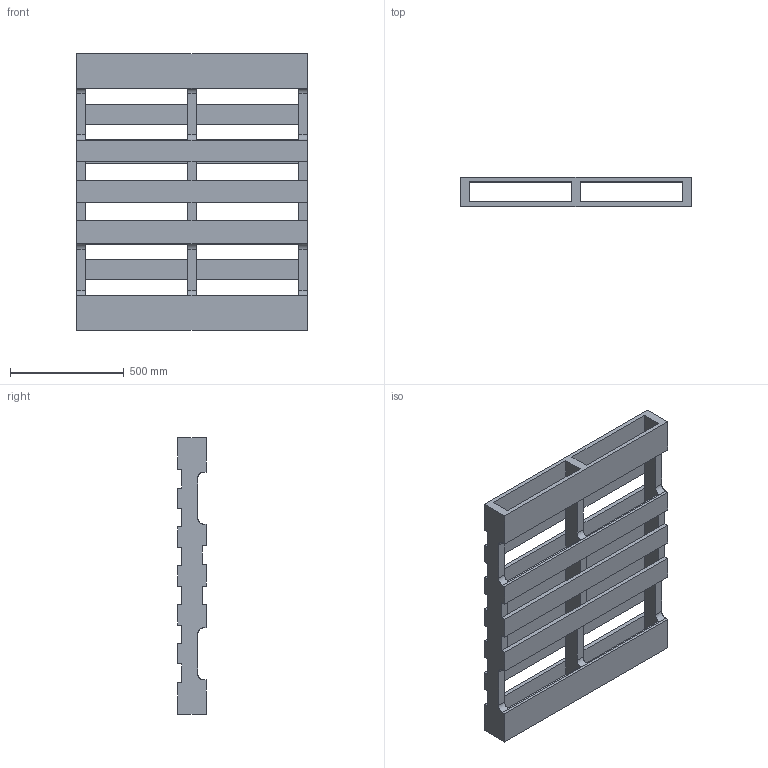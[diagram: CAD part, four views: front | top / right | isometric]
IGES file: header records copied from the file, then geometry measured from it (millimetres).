
Start section: SolidWorks IGES FILE using analytic representation for surfaces
Global section: file name: Y:\CONTENTCENTRAL\GMA 4-Way Pallet\cache\GMDEFAU06072003214453.igs; native system: SolidWorks 2003 by SolidWorks Corporation; preprocessor: Version 5.3; author: partstream; date: 030607.215305; units: inch
Bounding box: 1016 x 127 x 1219.2 mm (x, y, z)
Surface area: 3804039 mm2 (no closed solid volume)
Topology: 0 solids, 0 shells, 98 faces, 856 edges, 856 vertices
Faces by surface type: bspline 94, revolution 4
